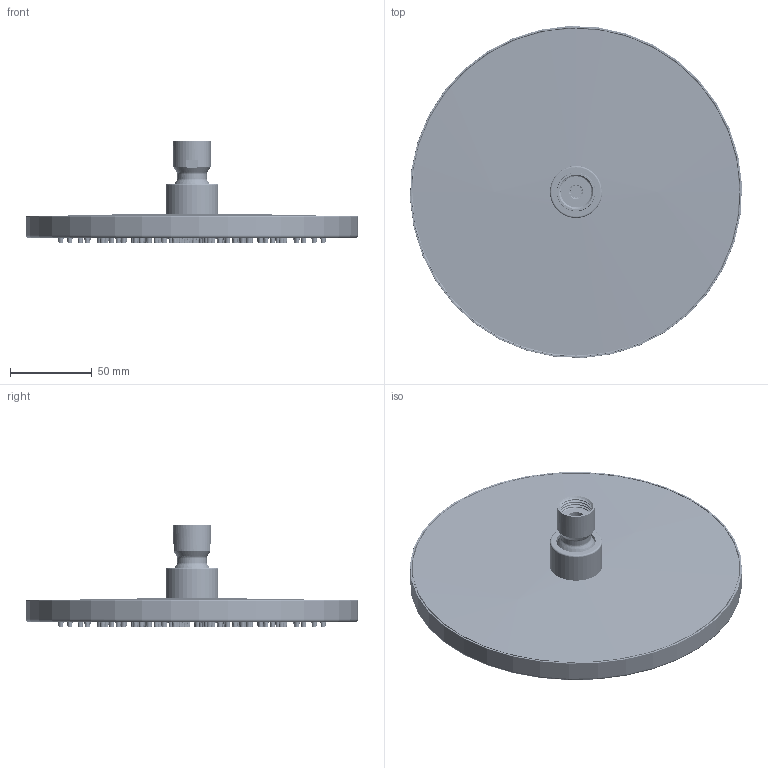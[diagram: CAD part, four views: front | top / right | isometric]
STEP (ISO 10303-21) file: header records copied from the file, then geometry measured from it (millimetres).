
FILE_DESCRIPTION(/* description */ ('Unknown'),/* implementation_level */ '2;1');
FILE_NAME(/* name */ 'RE038',/* time_stamp */ '2023-06-20T15:32:12+02:00',/* author */ ('Unknown'),/* organization */ ('Unknown'),/* preprocessor_version */ 'ST-DEVELOPER v18.102',/* originating_system */ 'Solid Edge',/* authorisation */ 'Unknown');
FILE_SCHEMA (('AUTOMOTIVE_DESIGN {1 0 10303 214 3 1 1}'));
Length unit declared in the file: millimetre
Products named in the file (11): RE038; RE038-02; RE038-03; RE038-04; RE038-05; RE038-001; RE038-10; RE038-11; RE038-01; RE038-06; 210202-4x6
Assembly tree (13 placements, depth 2):
  RE038
    RE038-02
    RE038-03
    RE038-04
    RE038-05
    RE038-001
    RE038-10
    RE038-11
    RE038-01
    RE038-06
    210202-4x6  x4
Bounding box: 203.3 x 203.3 x 62.69 mm (x, y, z)
Volume: 371366.7 mm3; surface area: 297994.2 mm2
Topology: 15 solids, 15 shells, 1498 faces, 3873 edges, 2691 vertices
Faces by surface type: torus 405, plane 400, cylinder 378, cone 287, bspline 24, sphere 4
Full cylindrical faces by diameter (mm): 1 x126, 2.5 x4, 3.3 x4, 4 x4, 4.5 x126, 4.8 x8, 7 x5, 8 x8, 8.8 x1, 11 x1, 13 x1, 13.7 x1, 13.9 x1, 14 x1, 14.212 x1, 14.8 x1, 15 x2, 15.3 x1, 16.5 x2, 18 x1, 19 x6, 19.812 x1, 20 x1, 23.2 x1, 23.5 x1, 24 x1, 25.852 x1, 26 x1, 26.2 x1, 28 x1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
Entity records: 41519 total; most frequent: CARTESIAN_POINT 11978, DIRECTION 6245, ORIENTED_EDGE 3910, FACE_BOUND 3254, EDGE_LOOP 3253, AXIS2_PLACEMENT_3D 3031, EDGE_CURVE 1955, VERTEX_POINT 1817
